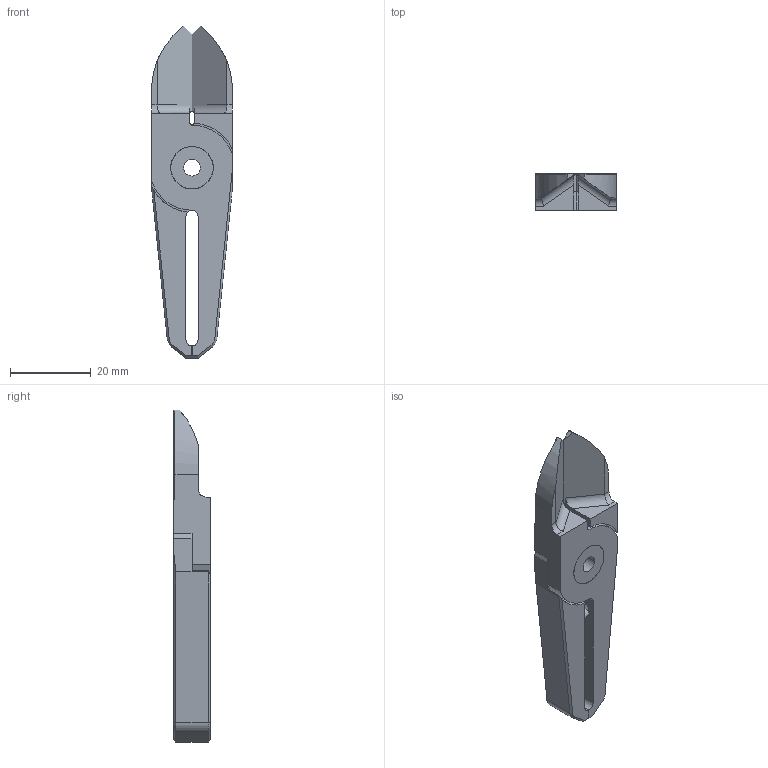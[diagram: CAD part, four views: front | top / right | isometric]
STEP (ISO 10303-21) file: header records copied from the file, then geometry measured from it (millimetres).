
FILE_DESCRIPTION (( 'STEP AP214' ), '1' );
FILE_NAME ('NT10AJ.STEP', '2019-11-28T05:32:51', ( '微软用户' ), ( '微软中国' ), 'SwSTEP 2.0', 'SolidWorks 2016', '' );
FILE_SCHEMA (( 'AUTOMOTIVE_DESIGN' ));
Length unit declared in the file: millimetre
Products named in the file (1): NT10AJ
Bounding box: 20 x 9 x 82 mm (x, y, z)
Surface area: 6489 mm2 (no closed solid volume)
Topology: 0 solids, 7 shells, 110 faces, 326 edges, 212 vertices
Faces by surface type: plane 52, cylinder 38, cone 16, bspline 4
Entity records: 4901 total; most frequent: CARTESIAN_POINT 1981, DIRECTION 612, ORIENTED_EDGE 580, EDGE_CURVE 322, VERTEX_POINT 212, AXIS2_PLACEMENT_3D 211, VECTOR 190, LINE 190
